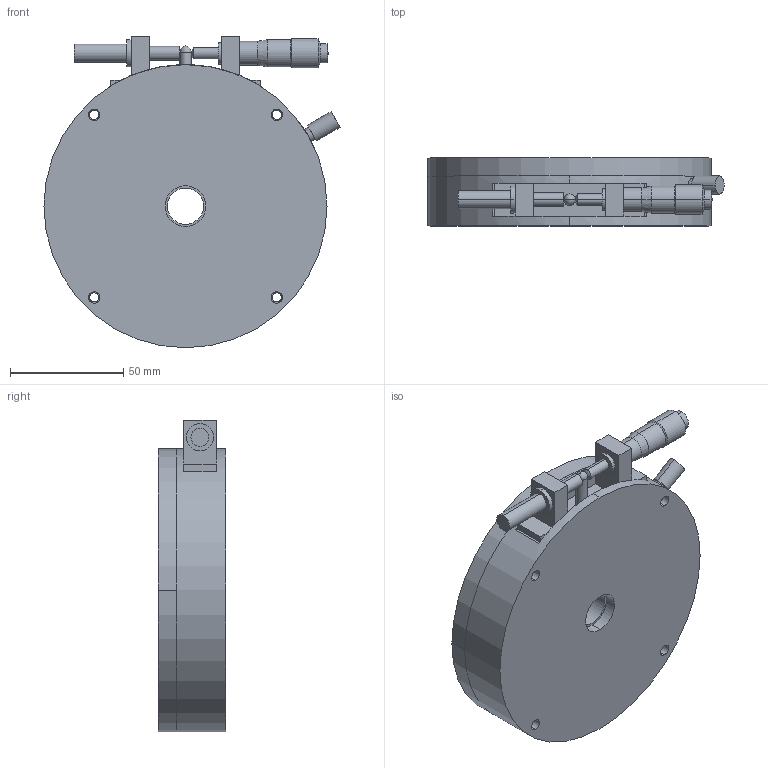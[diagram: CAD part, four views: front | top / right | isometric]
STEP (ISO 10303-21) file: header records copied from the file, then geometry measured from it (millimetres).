
FILE_DESCRIPTION (( 'STEP AP203' ), '1' );
FILE_NAME ('RS-111.STEP', '2008-02-25T07:43:15', ( '' ), ( '' ), 'SwSTEP 2.0', 'SolidWorks 2007', '' );
FILE_SCHEMA (( 'CONFIG_CONTROL_DESIGN' ));
Length unit declared in the file: millimetre
Products named in the file (3): RS-111; RS-111-1_蹬怮椔; RS-111-2_蹬怮椔
Assembly tree (2 placements, depth 2):
  RS-111
    RS-111-2_蹬怮椔
    RS-111-1_蹬怮椔
Bounding box: 130.75 x 30 x 137.5 mm (x, y, z)
Volume: 361297.2 mm3; surface area: 77832 mm2
Topology: 2 solids, 4 shells, 167 faces, 407 edges, 259 vertices
Faces by surface type: cylinder 104, plane 51, cone 8, sphere 2, torus 2
Entity records: 5534 total; most frequent: CARTESIAN_POINT 1026, DIRECTION 961, ORIENTED_EDGE 806, EDGE_CURVE 403, AXIS2_PLACEMENT_3D 396, VERTEX_POINT 259, EDGE_LOOP 238, CIRCLE 224
